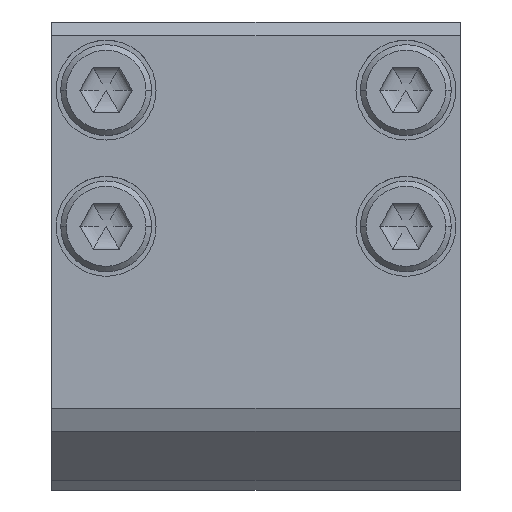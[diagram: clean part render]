
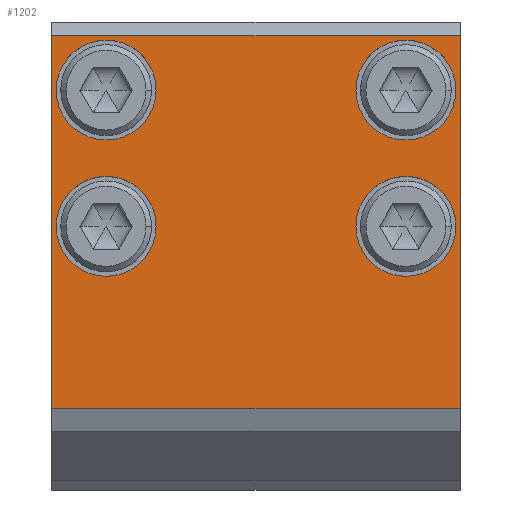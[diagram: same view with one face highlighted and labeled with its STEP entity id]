
A CAD part, top view. The second image highlights one B-rep face of the part: STEP entity #1202.
In plain terms, the highlighted planar face has unit normal (0, 0, 1).
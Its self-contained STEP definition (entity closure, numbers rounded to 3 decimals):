
#30 = EDGE_LOOP ( 'NONE', ( #501, #1174, #719, #4445 ) ) ;
#152 = DIRECTION ( 'NONE',  ( 1., 0., 0. ) ) ;
#204 = ORIENTED_EDGE ( 'NONE', *, *, #1068, .F. ) ;
#314 = VERTEX_POINT ( 'NONE', #4672 ) ;
#327 = CARTESIAN_POINT ( 'NONE',  ( -11., 44., 12.5 ) ) ;
#359 = VERTEX_POINT ( 'NONE', #1248 ) ;
#461 = CIRCLE ( 'NONE', #3054, 5.5 ) ;
#501 = ORIENTED_EDGE ( 'NONE', *, *, #1171, .T. ) ;
#557 = CARTESIAN_POINT ( 'NONE',  ( 22.5, 50., 12.5 ) ) ;
#563 = AXIS2_PLACEMENT_3D ( 'NONE', #2613, #2260, #679 ) ;
#579 = EDGE_CURVE ( 'NONE', #2056, #314, #2404, .T. ) ;
#631 = EDGE_CURVE ( 'NONE', #4751, #3128, #1678, .T. ) ;
#663 = EDGE_CURVE ( 'NONE', #1674, #4640, #4200, .T. ) ;
#679 = DIRECTION ( 'NONE',  ( -1., 0., 0. ) ) ;
#699 = DIRECTION ( 'NONE',  ( 1., 0., 0. ) ) ;
#719 = ORIENTED_EDGE ( 'NONE', *, *, #579, .F. ) ;
#819 = LINE ( 'NONE', #5025, #982 ) ;
#922 = DIRECTION ( 'NONE',  ( 0., 0., 1. ) ) ;
#963 = CARTESIAN_POINT ( 'NONE',  ( 22., 44., 12.5 ) ) ;
#982 = VECTOR ( 'NONE', #2683, 1000. ) ;
#1068 = EDGE_CURVE ( 'NONE', #3888, #1109, #1213, .T. ) ;
#1109 = VERTEX_POINT ( 'NONE', #4420 ) ;
#1148 = FACE_OUTER_BOUND ( 'NONE', #30, .T. ) ;
#1171 = EDGE_CURVE ( 'NONE', #3484, #1295, #4018, .T. ) ;
#1174 = ORIENTED_EDGE ( 'NONE', *, *, #3922, .T. ) ;
#1202 = ADVANCED_FACE ( 'NONE', ( #2214, #1919, #4321, #4687, #1148 ), #2659, .F. ) ;
#1213 = CIRCLE ( 'NONE', #4151, 5.5 ) ;
#1242 = CARTESIAN_POINT ( 'NONE',  ( 16.5, 44., 12.5 ) ) ;
#1248 = CARTESIAN_POINT ( 'NONE',  ( 11., 44., 12.5 ) ) ;
#1282 = VECTOR ( 'NONE', #3631, 1000. ) ;
#1287 = ORIENTED_EDGE ( 'NONE', *, *, #631, .F. ) ;
#1295 = VERTEX_POINT ( 'NONE', #1876 ) ;
#1380 = EDGE_LOOP ( 'NONE', ( #4583, #4352 ) ) ;
#1386 = VECTOR ( 'NONE', #1676, 1000. ) ;
#1607 = CIRCLE ( 'NONE', #3865, 5.5 ) ;
#1674 = VERTEX_POINT ( 'NONE', #4886 ) ;
#1676 = DIRECTION ( 'NONE',  ( 0., -1., 0. ) ) ;
#1678 = CIRCLE ( 'NONE', #2559, 5.5 ) ;
#1756 = CARTESIAN_POINT ( 'NONE',  ( -22.5, 51.5, 12.5 ) ) ;
#1760 = DIRECTION ( 'NONE',  ( 1., 0., 0. ) ) ;
#1824 = ORIENTED_EDGE ( 'NONE', *, *, #3177, .F. ) ;
#1876 = CARTESIAN_POINT ( 'NONE',  ( -22.5, 9., 12.5 ) ) ;
#1877 = EDGE_LOOP ( 'NONE', ( #1287, #3610 ) ) ;
#1919 = FACE_BOUND ( 'NONE', #3572, .T. ) ;
#2056 = VERTEX_POINT ( 'NONE', #557 ) ;
#2118 = VERTEX_POINT ( 'NONE', #963 ) ;
#2214 = FACE_BOUND ( 'NONE', #1877, .T. ) ;
#2232 = CARTESIAN_POINT ( 'NONE',  ( -16.5, 44., 12.5 ) ) ;
#2250 = DIRECTION ( 'NONE',  ( 1., 0., 0. ) ) ;
#2260 = DIRECTION ( 'NONE',  ( 0., 0., -1. ) ) ;
#2290 = CARTESIAN_POINT ( 'NONE',  ( -22.5, 50., 12.5 ) ) ;
#2326 = AXIS2_PLACEMENT_3D ( 'NONE', #2232, #3871, #699 ) ;
#2381 = CIRCLE ( 'NONE', #4956, 5.5 ) ;
#2404 = LINE ( 'NONE', #4400, #1386 ) ;
#2526 = ORIENTED_EDGE ( 'NONE', *, *, #2929, .F. ) ;
#2547 = CARTESIAN_POINT ( 'NONE',  ( -16.5, 29., 12.5 ) ) ;
#2559 = AXIS2_PLACEMENT_3D ( 'NONE', #2547, #3311, #1760 ) ;
#2613 = CARTESIAN_POINT ( 'NONE',  ( -22.5, 51.5, 12.5 ) ) ;
#2659 = PLANE ( 'NONE',  #563 ) ;
#2683 = DIRECTION ( 'NONE',  ( 1., 0., 0. ) ) ;
#2717 = VECTOR ( 'NONE', #4094, 1000. ) ;
#2757 = DIRECTION ( 'NONE',  ( 1., 0., 0. ) ) ;
#2815 = EDGE_CURVE ( 'NONE', #4640, #1674, #4183, .T. ) ;
#2866 = CARTESIAN_POINT ( 'NONE',  ( 16.5, 29., 12.5 ) ) ;
#2926 = ORIENTED_EDGE ( 'NONE', *, *, #3227, .F. ) ;
#2929 = EDGE_CURVE ( 'NONE', #2118, #359, #461, .T. ) ;
#2963 = EDGE_LOOP ( 'NONE', ( #2526, #2926 ) ) ;
#3007 = CARTESIAN_POINT ( 'NONE',  ( -11., 29., 12.5 ) ) ;
#3054 = AXIS2_PLACEMENT_3D ( 'NONE', #1242, #4752, #2757 ) ;
#3079 = EDGE_CURVE ( 'NONE', #3128, #4751, #2381, .T. ) ;
#3128 = VERTEX_POINT ( 'NONE', #4434 ) ;
#3177 = EDGE_CURVE ( 'NONE', #1109, #3888, #1607, .T. ) ;
#3227 = EDGE_CURVE ( 'NONE', #359, #2118, #4002, .T. ) ;
#3311 = DIRECTION ( 'NONE',  ( 0., 0., 1. ) ) ;
#3325 = DIRECTION ( 'NONE',  ( 1., 0., 0. ) ) ;
#3346 = DIRECTION ( 'NONE',  ( 0., 0., 1. ) ) ;
#3484 = VERTEX_POINT ( 'NONE', #2290 ) ;
#3496 = CARTESIAN_POINT ( 'NONE',  ( 16.5, 44., 12.5 ) ) ;
#3572 = EDGE_LOOP ( 'NONE', ( #204, #1824 ) ) ;
#3610 = ORIENTED_EDGE ( 'NONE', *, *, #3079, .F. ) ;
#3631 = DIRECTION ( 'NONE',  ( -1., 0., 0. ) ) ;
#3865 = AXIS2_PLACEMENT_3D ( 'NONE', #5016, #4255, #2250 ) ;
#3867 = CARTESIAN_POINT ( 'NONE',  ( 22., 29., 12.5 ) ) ;
#3871 = DIRECTION ( 'NONE',  ( 0., 0., 1. ) ) ;
#3888 = VERTEX_POINT ( 'NONE', #3867 ) ;
#3922 = EDGE_CURVE ( 'NONE', #1295, #314, #819, .T. ) ;
#4002 = CIRCLE ( 'NONE', #4285, 5.5 ) ;
#4018 = LINE ( 'NONE', #1756, #2717 ) ;
#4030 = CARTESIAN_POINT ( 'NONE',  ( -22.5, 50., 12.5 ) ) ;
#4094 = DIRECTION ( 'NONE',  ( 0., -1., 0. ) ) ;
#4151 = AXIS2_PLACEMENT_3D ( 'NONE', #2866, #922, #152 ) ;
#4183 = CIRCLE ( 'NONE', #2326, 5.5 ) ;
#4200 = CIRCLE ( 'NONE', #4607, 5.5 ) ;
#4255 = DIRECTION ( 'NONE',  ( 0., 0., 1. ) ) ;
#4285 = AXIS2_PLACEMENT_3D ( 'NONE', #3496, #4706, #4654 ) ;
#4321 = FACE_BOUND ( 'NONE', #1380, .T. ) ;
#4352 = ORIENTED_EDGE ( 'NONE', *, *, #663, .F. ) ;
#4366 = EDGE_CURVE ( 'NONE', #2056, #3484, #4817, .T. ) ;
#4400 = CARTESIAN_POINT ( 'NONE',  ( 22.5, 51.5, 12.5 ) ) ;
#4417 = DIRECTION ( 'NONE',  ( 1., 0., 0. ) ) ;
#4420 = CARTESIAN_POINT ( 'NONE',  ( 11., 29., 12.5 ) ) ;
#4434 = CARTESIAN_POINT ( 'NONE',  ( -22., 29., 12.5 ) ) ;
#4445 = ORIENTED_EDGE ( 'NONE', *, *, #4366, .T. ) ;
#4583 = ORIENTED_EDGE ( 'NONE', *, *, #2815, .F. ) ;
#4607 = AXIS2_PLACEMENT_3D ( 'NONE', #4865, #3346, #3325 ) ;
#4640 = VERTEX_POINT ( 'NONE', #327 ) ;
#4654 = DIRECTION ( 'NONE',  ( 1., 0., 0. ) ) ;
#4672 = CARTESIAN_POINT ( 'NONE',  ( 22.5, 9., 12.5 ) ) ;
#4687 = FACE_BOUND ( 'NONE', #2963, .T. ) ;
#4706 = DIRECTION ( 'NONE',  ( 0., 0., 1. ) ) ;
#4751 = VERTEX_POINT ( 'NONE', #3007 ) ;
#4752 = DIRECTION ( 'NONE',  ( 0., 0., 1. ) ) ;
#4795 = DIRECTION ( 'NONE',  ( 0., 0., 1. ) ) ;
#4813 = CARTESIAN_POINT ( 'NONE',  ( -16.5, 29., 12.5 ) ) ;
#4817 = LINE ( 'NONE', #4030, #1282 ) ;
#4865 = CARTESIAN_POINT ( 'NONE',  ( -16.5, 44., 12.5 ) ) ;
#4886 = CARTESIAN_POINT ( 'NONE',  ( -22., 44., 12.5 ) ) ;
#4956 = AXIS2_PLACEMENT_3D ( 'NONE', #4813, #4795, #4417 ) ;
#5016 = CARTESIAN_POINT ( 'NONE',  ( 16.5, 29., 12.5 ) ) ;
#5025 = CARTESIAN_POINT ( 'NONE',  ( 22.5, 9., 12.5 ) ) ;
